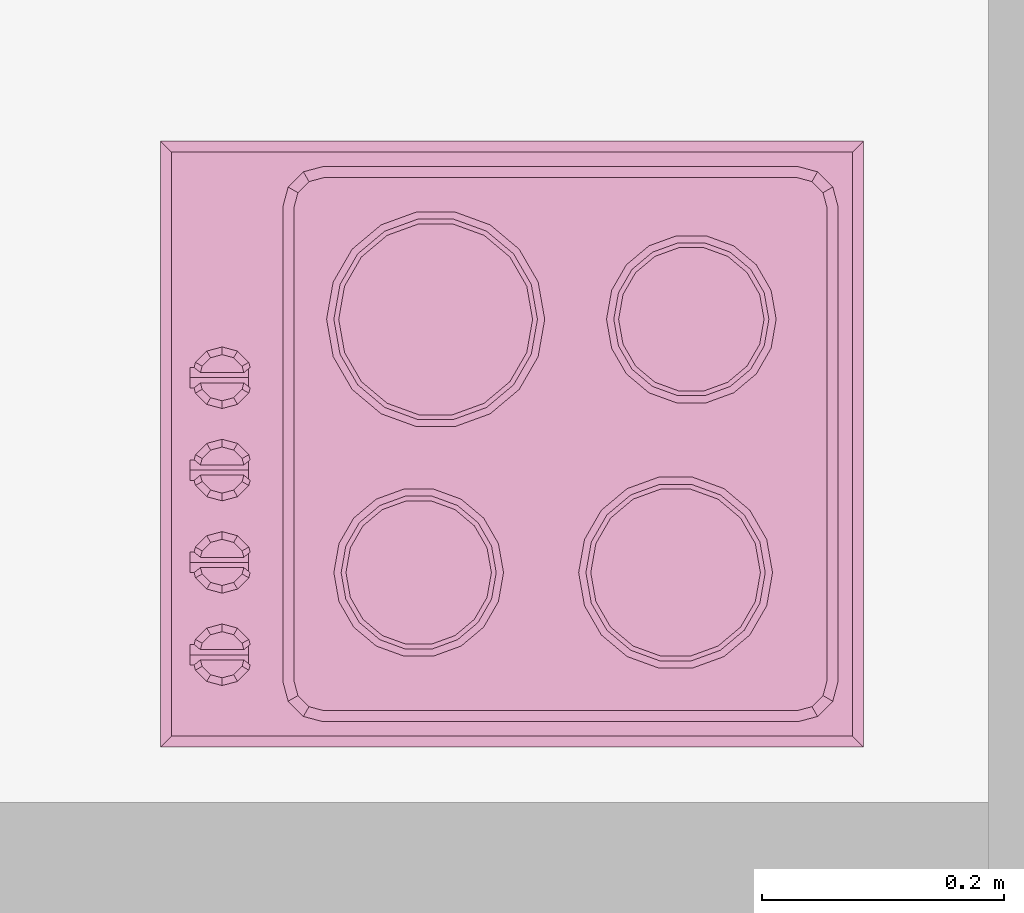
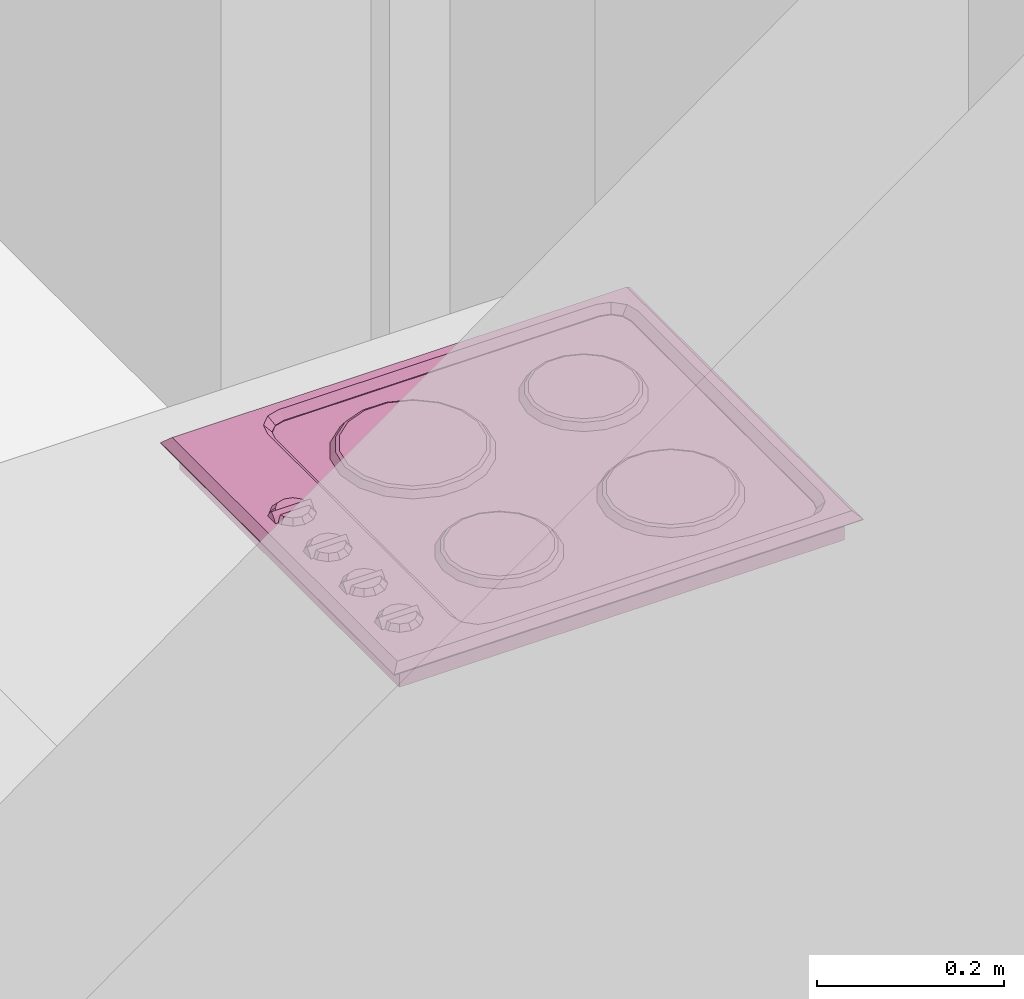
# One storey, part 157 of 172: 1 furnishing.
"""IFC2X3 building model written with IfcOpenShell, lengths in millimetres."""

from ifc_helpers import new_model, entity, si_unit, converted_unit, money_unit, direction, frame, origin_with_axes, place, context, subcontext, project, spatial, faceted_brep, source, transform, mapped, material, material_list, type_object, element, save


model = new_model("IFC2X3")

# Units and contexts
model_context = context("Model", 3, precision=1e-05, world=origin_with_axes(), true_north=direction((0.0, 1.0)))
body_context = subcontext(model_context, "Body", "Model", "MODEL_VIEW")
ifc_project = project(units=[si_unit("LENGTHUNIT", "METRE", prefix="MILLI"), si_unit("AREAUNIT", "SQUARE_METRE"), si_unit("VOLUMEUNIT", "CUBIC_METRE"), converted_unit("PLANEANGLEUNIT", "DEGREE", entity("IfcPlaneAngleMeasure", 0.0174532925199), si_unit("PLANEANGLEUNIT", "RADIAN"), dimensions=[0, 0, 0, 0, 0, 0, 0]), si_unit("SOLIDANGLEUNIT", "STERADIAN"), money_unit("USD"), converted_unit("TIMEUNIT", "Year", entity("IfcTimeMeasure", 31556926.0), si_unit("TIMEUNIT", "SECOND"), dimensions=[0, 0, 0, 0, 0, 0, 0]), si_unit("MASSUNIT", "GRAM"), si_unit("THERMODYNAMICTEMPERATUREUNIT", "DEGREE_CELSIUS"), si_unit("LUMINOUSINTENSITYUNIT", "LUMEN")], contexts=[model_context])

# Site, building, storey
site_placement = place(None, origin_with_axes())
site = spatial("IfcSite", under=ifc_project, at=site_placement, Name="Site", CompositionType="ELEMENT")
building_placement = place(site_placement, origin_with_axes())
building = spatial("IfcBuilding", under=site, at=building_placement, Name="Building", CompositionType="ELEMENT")
storey_placement = place(building_placement, frame((0.0, 0.0, 3200.0), z_axis=(0.0, 0.0, 1.0), x_axis=(1.0, 0.0, 0.0)))
storey = spatial("IfcBuildingStorey", under=building, at=storey_placement, Name="3KORRUS", CompositionType="ELEMENT", Elevation=3200.0)

# Furnishing
ifc_material = material(Name="Background")
ifc_material_list = material_list([ifc_material])
furnishing_element_type = type_object("IfcFurnishingElementType", Name="Cooktops Electric 19")
shared_shape = source(origin_with_axes(), body_context, "Body", "Brep", [
    faceted_brep([(-230.175, 116.638, 900.0), (-224.537, 118.691, 908.0), (-229.0, 144.0, 908.0), (-235.0, 144.0, 900.0), (-216.284, 92.577, 900.0), (-211.687, 96.434, 908.0), (-192.0, 79.914, 908.0), (-167.85, 71.124, 908.0), (-142.15, 71.124, 908.0), (-118.0, 79.914, 908.0), (-98.313, 96.434, 908.0), (-85.463, 118.691, 908.0), (-81.0, 144.0, 908.0), (-85.463, 169.309, 908.0), (-98.313, 191.566, 908.0), (-118.0, 208.086, 908.0), (-142.15, 216.876, 908.0), (-167.85, 216.876, 908.0), (-192.0, 208.086, 908.0), (-211.687, 191.566, 908.0), (-224.537, 169.309, 908.0), (-230.175, 171.362, 900.0), (-216.284, 195.423, 900.0), (-195.0, 213.282, 900.0), (-168.892, 222.785, 900.0), (-141.108, 222.785, 900.0), (-115.0, 213.282, 900.0), (-93.716, 195.423, 900.0), (-79.825, 171.362, 900.0), (-75.0, 144.0, 900.0), (-79.825, 116.638, 900.0), (-93.716, 92.577, 900.0), (-115.0, 74.718, 900.0), (-141.108, 65.215, 900.0), (-168.892, 65.215, 900.0), (-195.0, 74.718, 900.0)], [[[0, 1, 2, 3]], [[4, 5, 1, 0]], [[1, 5, 6, 7, 8, 9, 10, 11, 12, 13, 14, 15, 16, 17, 18, 19, 20, 2]], [[3, 2, 20, 21]], [[0, 3, 21, 22, 23, 24, 25, 26, 27, 28, 29, 30, 31, 32, 33, 34, 35, 4]], [[35, 6, 5, 4]], [[34, 7, 6, 35]], [[33, 8, 7, 34]], [[32, 9, 8, 33]], [[31, 10, 9, 32]], [[30, 11, 10, 31]], [[29, 12, 11, 30]], [[28, 13, 12, 29]], [[27, 14, 13, 28]], [[26, 15, 14, 27]], [[25, 16, 15, 26]], [[24, 17, 16, 25]], [[23, 18, 17, 24]], [[22, 19, 18, 23]], [[21, 20, 19, 22]]]),
    faceted_brep([(-224.537, 118.691, 908.0), (-220.778, 120.059, 910.0), (-225.0, 144.0, 910.0), (-229.0, 144.0, 908.0), (-211.687, 96.434, 908.0), (-208.623, 99.005, 910.0), (-190.0, 83.378, 910.0), (-167.155, 75.063, 910.0), (-142.845, 75.063, 910.0), (-120.0, 83.378, 910.0), (-101.377, 99.005, 910.0), (-89.222, 120.059, 910.0), (-85.0, 144.0, 910.0), (-89.222, 167.941, 910.0), (-101.377, 188.995, 910.0), (-120.0, 204.622, 910.0), (-142.845, 212.937, 910.0), (-167.155, 212.937, 910.0), (-190.0, 204.622, 910.0), (-208.623, 188.995, 910.0), (-220.778, 167.941, 910.0), (-224.537, 169.309, 908.0), (-211.687, 191.566, 908.0), (-192.0, 208.086, 908.0), (-167.85, 216.876, 908.0), (-142.15, 216.876, 908.0), (-118.0, 208.086, 908.0), (-98.313, 191.566, 908.0), (-85.463, 169.309, 908.0), (-81.0, 144.0, 908.0), (-85.463, 118.691, 908.0), (-98.313, 96.434, 908.0), (-118.0, 79.914, 908.0), (-142.15, 71.124, 908.0), (-167.85, 71.124, 908.0), (-192.0, 79.914, 908.0)], [[[0, 1, 2, 3]], [[4, 5, 1, 0]], [[1, 5, 6, 7, 8, 9, 10, 11, 12, 13, 14, 15, 16, 17, 18, 19, 20, 2]], [[3, 2, 20, 21]], [[0, 3, 21, 22, 23, 24, 25, 26, 27, 28, 29, 30, 31, 32, 33, 34, 35, 4]], [[35, 6, 5, 4]], [[34, 7, 6, 35]], [[33, 8, 7, 34]], [[32, 9, 8, 33]], [[31, 10, 9, 32]], [[30, 11, 10, 31]], [[29, 12, 11, 30]], [[28, 13, 12, 29]], [[27, 14, 13, 28]], [[26, 15, 14, 27]], [[25, 16, 15, 26]], [[24, 17, 16, 25]], [[23, 18, 17, 24]], [[22, 19, 18, 23]], [[21, 20, 19, 22]]]),
    faceted_brep([(-432.778, 120.059, 900.0), (-427.14, 122.111, 908.0), (-431.0, 144.0, 908.0), (-437.0, 144.0, 900.0), (-420.623, 99.005, 900.0), (-416.027, 102.862, 908.0), (-399.0, 88.574, 908.0), (-378.113, 80.972, 908.0), (-355.887, 80.972, 908.0), (-335.0, 88.574, 908.0), (-317.973, 102.862, 908.0), (-306.86, 122.111, 908.0), (-303.0, 144.0, 908.0), (-306.86, 165.889, 908.0), (-317.973, 185.138, 908.0), (-335.0, 199.426, 908.0), (-355.887, 207.028, 908.0), (-378.113, 207.028, 908.0), (-399.0, 199.426, 908.0), (-416.027, 185.138, 908.0), (-427.14, 165.889, 908.0), (-432.778, 167.941, 900.0), (-420.623, 188.995, 900.0), (-402.0, 204.622, 900.0), (-379.155, 212.937, 900.0), (-354.845, 212.937, 900.0), (-332.0, 204.622, 900.0), (-313.377, 188.995, 900.0), (-301.222, 167.941, 900.0), (-297.0, 144.0, 900.0), (-301.222, 120.059, 900.0), (-313.377, 99.005, 900.0), (-332.0, 83.378, 900.0), (-354.845, 75.063, 900.0), (-379.155, 75.063, 900.0), (-402.0, 83.378, 900.0)], [[[0, 1, 2, 3]], [[4, 5, 1, 0]], [[1, 5, 6, 7, 8, 9, 10, 11, 12, 13, 14, 15, 16, 17, 18, 19, 20, 2]], [[3, 2, 20, 21]], [[0, 3, 21, 22, 23, 24, 25, 26, 27, 28, 29, 30, 31, 32, 33, 34, 35, 4]], [[35, 6, 5, 4]], [[34, 7, 6, 35]], [[33, 8, 7, 34]], [[32, 9, 8, 33]], [[31, 10, 9, 32]], [[30, 11, 10, 31]], [[29, 12, 11, 30]], [[28, 13, 12, 29]], [[27, 14, 13, 28]], [[26, 15, 14, 27]], [[25, 16, 15, 26]], [[24, 17, 16, 25]], [[23, 18, 17, 24]], [[22, 19, 18, 23]], [[21, 20, 19, 22]]]),
    faceted_brep([(-427.14, 122.111, 908.0), (-423.382, 123.479, 910.0), (-427.0, 144.0, 910.0), (-431.0, 144.0, 908.0), (-416.027, 102.862, 908.0), (-412.963, 105.433, 910.0), (-397.0, 92.038, 910.0), (-377.419, 84.912, 910.0), (-356.581, 84.912, 910.0), (-337.0, 92.038, 910.0), (-321.037, 105.433, 910.0), (-310.618, 123.479, 910.0), (-307.0, 144.0, 910.0), (-310.618, 164.521, 910.0), (-321.037, 182.567, 910.0), (-337.0, 195.962, 910.0), (-356.581, 203.088, 910.0), (-377.419, 203.088, 910.0), (-397.0, 195.962, 910.0), (-412.963, 182.567, 910.0), (-423.382, 164.521, 910.0), (-427.14, 165.889, 908.0), (-416.027, 185.138, 908.0), (-399.0, 199.426, 908.0), (-378.113, 207.028, 908.0), (-355.887, 207.028, 908.0), (-335.0, 199.426, 908.0), (-317.973, 185.138, 908.0), (-306.86, 165.889, 908.0), (-303.0, 144.0, 908.0), (-306.86, 122.111, 908.0), (-317.973, 102.862, 908.0), (-335.0, 88.574, 908.0), (-355.887, 80.972, 908.0), (-378.113, 80.972, 908.0), (-399.0, 88.574, 908.0)], [[[0, 1, 2, 3]], [[4, 5, 1, 0]], [[1, 5, 6, 7, 8, 9, 10, 11, 12, 13, 14, 15, 16, 17, 18, 19, 20, 2]], [[3, 2, 20, 21]], [[0, 3, 21, 22, 23, 24, 25, 26, 27, 28, 29, 30, 31, 32, 33, 34, 35, 4]], [[35, 6, 5, 4]], [[34, 7, 6, 35]], [[33, 8, 7, 34]], [[32, 9, 8, 33]], [[31, 10, 9, 32]], [[30, 11, 10, 31]], [[29, 12, 11, 30]], [[28, 13, 12, 29]], [[27, 14, 13, 28]], [[26, 15, 14, 27]], [[25, 16, 15, 26]], [[24, 17, 16, 25]], [[23, 18, 17, 24]], [[22, 19, 18, 23]], [[21, 20, 19, 22]]]),
    faceted_brep([(-437.572, 322.218, 900.0), (-431.934, 324.27, 908.0), (-437.0, 353.0, 908.0), (-443.0, 353.0, 900.0), (-421.944, 295.149, 900.0), (-417.348, 299.006, 908.0), (-395.0, 280.254, 908.0), (-367.586, 270.276, 908.0), (-338.414, 270.276, 908.0), (-311.0, 280.254, 908.0), (-288.652, 299.006, 908.0), (-274.066, 324.27, 908.0), (-269.0, 353.0, 908.0), (-274.066, 381.73, 908.0), (-288.652, 406.994, 908.0), (-311.0, 425.746, 908.0), (-338.414, 435.724, 908.0), (-367.586, 435.724, 908.0), (-395.0, 425.746, 908.0), (-417.348, 406.994, 908.0), (-431.934, 381.73, 908.0), (-437.572, 383.782, 900.0), (-421.944, 410.851, 900.0), (-398.0, 430.942, 900.0), (-368.628, 441.633, 900.0), (-337.372, 441.633, 900.0), (-308.0, 430.942, 900.0), (-284.056, 410.851, 900.0), (-268.428, 383.782, 900.0), (-263.0, 353.0, 900.0), (-268.428, 322.218, 900.0), (-284.056, 295.149, 900.0), (-308.0, 275.058, 900.0), (-337.372, 264.367, 900.0), (-368.628, 264.367, 900.0), (-398.0, 275.058, 900.0)], [[[0, 1, 2, 3]], [[4, 5, 1, 0]], [[1, 5, 6, 7, 8, 9, 10, 11, 12, 13, 14, 15, 16, 17, 18, 19, 20, 2]], [[3, 2, 20, 21]], [[0, 3, 21, 22, 23, 24, 25, 26, 27, 28, 29, 30, 31, 32, 33, 34, 35, 4]], [[35, 6, 5, 4]], [[34, 7, 6, 35]], [[33, 8, 7, 34]], [[32, 9, 8, 33]], [[31, 10, 9, 32]], [[30, 11, 10, 31]], [[29, 12, 11, 30]], [[28, 13, 12, 29]], [[27, 14, 13, 28]], [[26, 15, 14, 27]], [[25, 16, 15, 26]], [[24, 17, 16, 25]], [[23, 18, 17, 24]], [[22, 19, 18, 23]], [[21, 20, 19, 22]]]),
    faceted_brep([(-431.934, 324.27, 908.0), (-428.175, 325.638, 910.0), (-433.0, 353.0, 910.0), (-437.0, 353.0, 908.0), (-417.348, 299.006, 908.0), (-414.284, 301.577, 910.0), (-393.0, 283.718, 910.0), (-366.892, 274.215, 910.0), (-339.108, 274.215, 910.0), (-313.0, 283.718, 910.0), (-291.716, 301.577, 910.0), (-277.825, 325.638, 910.0), (-273.0, 353.0, 910.0), (-277.825, 380.362, 910.0), (-291.716, 404.423, 910.0), (-313.0, 422.282, 910.0), (-339.108, 431.785, 910.0), (-366.892, 431.785, 910.0), (-393.0, 422.282, 910.0), (-414.284, 404.423, 910.0), (-428.175, 380.362, 910.0), (-431.934, 381.73, 908.0), (-417.348, 406.994, 908.0), (-395.0, 425.746, 908.0), (-367.586, 435.724, 908.0), (-338.414, 435.724, 908.0), (-311.0, 425.746, 908.0), (-288.652, 406.994, 908.0), (-274.066, 381.73, 908.0), (-269.0, 353.0, 908.0), (-274.066, 324.27, 908.0), (-288.652, 299.006, 908.0), (-311.0, 280.254, 908.0), (-338.414, 270.276, 908.0), (-367.586, 270.276, 908.0), (-395.0, 280.254, 908.0)], [[[0, 1, 2, 3]], [[4, 5, 1, 0]], [[1, 5, 6, 7, 8, 9, 10, 11, 12, 13, 14, 15, 16, 17, 18, 19, 20, 2]], [[3, 2, 20, 21]], [[0, 3, 21, 22, 23, 24, 25, 26, 27, 28, 29, 30, 31, 32, 33, 34, 35, 4]], [[35, 6, 5, 4]], [[34, 7, 6, 35]], [[33, 8, 7, 34]], [[32, 9, 8, 33]], [[31, 10, 9, 32]], [[30, 11, 10, 31]], [[29, 12, 11, 30]], [[28, 13, 12, 29]], [[27, 14, 13, 28]], [[26, 15, 14, 27]], [[25, 16, 15, 26]], [[24, 17, 16, 25]], [[23, 18, 17, 24]], [[22, 19, 18, 23]], [[21, 20, 19, 22]]]),
    faceted_brep([(-207.778, 329.059, 900.0), (-202.14, 331.111, 908.0), (-206.0, 353.0, 908.0), (-212.0, 353.0, 900.0), (-195.623, 308.005, 900.0), (-191.027, 311.862, 908.0), (-174.0, 297.574, 908.0), (-153.113, 289.972, 908.0), (-130.887, 289.972, 908.0), (-110.0, 297.574, 908.0), (-92.973, 311.862, 908.0), (-81.86, 331.111, 908.0), (-78.0, 353.0, 908.0), (-81.86, 374.889, 908.0), (-92.973, 394.138, 908.0), (-110.0, 408.426, 908.0), (-130.887, 416.028, 908.0), (-153.113, 416.028, 908.0), (-174.0, 408.426, 908.0), (-191.027, 394.138, 908.0), (-202.14, 374.889, 908.0), (-207.778, 376.941, 900.0), (-195.623, 397.995, 900.0), (-177.0, 413.622, 900.0), (-154.155, 421.937, 900.0), (-129.845, 421.937, 900.0), (-107.0, 413.622, 900.0), (-88.377, 397.995, 900.0), (-76.222, 376.941, 900.0), (-72.0, 353.0, 900.0), (-76.222, 329.059, 900.0), (-88.377, 308.005, 900.0), (-107.0, 292.378, 900.0), (-129.845, 284.063, 900.0), (-154.155, 284.063, 900.0), (-177.0, 292.378, 900.0)], [[[0, 1, 2, 3]], [[4, 5, 1, 0]], [[1, 5, 6, 7, 8, 9, 10, 11, 12, 13, 14, 15, 16, 17, 18, 19, 20, 2]], [[3, 2, 20, 21]], [[0, 3, 21, 22, 23, 24, 25, 26, 27, 28, 29, 30, 31, 32, 33, 34, 35, 4]], [[35, 6, 5, 4]], [[34, 7, 6, 35]], [[33, 8, 7, 34]], [[32, 9, 8, 33]], [[31, 10, 9, 32]], [[30, 11, 10, 31]], [[29, 12, 11, 30]], [[28, 13, 12, 29]], [[27, 14, 13, 28]], [[26, 15, 14, 27]], [[25, 16, 15, 26]], [[24, 17, 16, 25]], [[23, 18, 17, 24]], [[22, 19, 18, 23]], [[21, 20, 19, 22]]]),
    faceted_brep([(-202.14, 331.111, 908.0), (-198.382, 332.479, 910.0), (-202.0, 353.0, 910.0), (-206.0, 353.0, 908.0), (-191.027, 311.862, 908.0), (-187.963, 314.433, 910.0), (-172.0, 301.038, 910.0), (-152.419, 293.912, 910.0), (-131.581, 293.912, 910.0), (-112.0, 301.038, 910.0), (-96.037, 314.433, 910.0), (-85.618, 332.479, 910.0), (-82.0, 353.0, 910.0), (-85.618, 373.521, 910.0), (-96.037, 391.567, 910.0), (-112.0, 404.962, 910.0), (-131.581, 412.088, 910.0), (-152.419, 412.088, 910.0), (-172.0, 404.962, 910.0), (-187.963, 391.567, 910.0), (-198.382, 373.521, 910.0), (-202.14, 374.889, 908.0), (-191.027, 394.138, 908.0), (-174.0, 408.426, 908.0), (-153.113, 416.028, 908.0), (-130.887, 416.028, 908.0), (-110.0, 408.426, 908.0), (-92.973, 394.138, 908.0), (-81.86, 374.889, 908.0), (-78.0, 353.0, 908.0), (-81.86, 331.111, 908.0), (-92.973, 311.862, 908.0), (-110.0, 297.574, 908.0), (-130.887, 289.972, 908.0), (-153.113, 289.972, 908.0), (-174.0, 297.574, 908.0)], [[[0, 1, 2, 3]], [[4, 5, 1, 0]], [[1, 5, 6, 7, 8, 9, 10, 11, 12, 13, 14, 15, 16, 17, 18, 19, 20, 2]], [[3, 2, 20, 21]], [[0, 3, 21, 22, 23, 24, 25, 26, 27, 28, 29, 30, 31, 32, 33, 34, 35, 4]], [[35, 6, 5, 4]], [[34, 7, 6, 35]], [[33, 8, 7, 34]], [[32, 9, 8, 33]], [[31, 10, 9, 32]], [[30, 11, 10, 31]], [[29, 12, 11, 30]], [[28, 13, 12, 29]], [[27, 14, 13, 28]], [[26, 15, 14, 27]], [[25, 16, 15, 26]], [[24, 17, 16, 25]], [[23, 18, 17, 24]], [[22, 19, 18, 23]], [[21, 20, 19, 22]]]),
    faceted_brep([(-506.069, 67.733, 910.0), (-507.203, 63.5, 910.0), (-516.5, 54.203, 910.0), (-529.2, 50.8, 910.0), (-541.9, 54.203, 910.0), (-551.197, 63.5, 910.0), (-552.331, 67.733, 910.0), (-511.284, 71.967, 916.35), (-512.702, 66.675, 916.35), (-519.675, 59.702, 916.35), (-529.2, 57.15, 916.35), (-538.725, 59.702, 916.35), (-545.698, 66.675, 916.35), (-547.116, 71.967, 916.35)], [[[0, 1, 2, 3, 4, 5, 6]], [[7, 8, 1, 0]], [[9, 2, 1, 8]], [[10, 3, 2, 9]], [[11, 4, 3, 10]], [[12, 5, 4, 11]], [[6, 5, 12, 13]], [[13, 7, 0, 6]], [[13, 12, 11, 10, 9, 8, 7]]]),
    faceted_brep([(-547.116, 80.433, 916.35), (-545.698, 85.725, 916.35), (-551.197, 88.9, 910.0), (-552.331, 84.667, 910.0), (-511.284, 80.433, 916.35), (-512.702, 85.725, 916.35), (-519.675, 92.698, 916.35), (-529.2, 95.25, 916.35), (-538.725, 92.698, 916.35), (-541.9, 98.197, 910.0), (-529.2, 101.6, 910.0), (-516.5, 98.197, 910.0), (-507.203, 88.9, 910.0), (-506.069, 84.667, 910.0)], [[[0, 1, 2, 3]], [[4, 5, 6, 7, 8, 1, 0]], [[8, 9, 2, 1]], [[3, 2, 9, 10, 11, 12, 13]], [[13, 4, 0, 3]], [[13, 12, 5, 4]], [[5, 12, 11, 6]], [[6, 11, 10, 7]], [[7, 10, 9, 8]]]),
    faceted_brep([(-555.658, 84.667, 910.0), (-507.398, 84.667, 910.0), (-507.398, 67.733, 910.0), (-555.658, 67.733, 910.0), (-555.658, 80.433, 916.35), (-507.398, 80.433, 916.35), (-507.398, 76.2, 920.583), (-507.398, 71.967, 916.35), (-555.658, 71.967, 916.35), (-555.658, 76.2, 920.583)], [[[0, 1, 2, 3]], [[4, 5, 1, 0]], [[1, 5, 6, 7, 2]], [[3, 2, 7, 8]], [[0, 3, 8, 9, 4]], [[9, 6, 5, 4]], [[8, 7, 6, 9]]]),
    faceted_brep([(-506.069, 143.933, 910.0), (-507.203, 139.7, 910.0), (-516.5, 130.403, 910.0), (-529.2, 127.0, 910.0), (-541.9, 130.403, 910.0), (-551.197, 139.7, 910.0), (-552.331, 143.933, 910.0), (-511.284, 148.167, 916.35), (-512.702, 142.875, 916.35), (-519.675, 135.902, 916.35), (-529.2, 133.35, 916.35), (-538.725, 135.902, 916.35), (-545.698, 142.875, 916.35), (-547.116, 148.167, 916.35)], [[[0, 1, 2, 3, 4, 5, 6]], [[7, 8, 1, 0]], [[9, 2, 1, 8]], [[10, 3, 2, 9]], [[11, 4, 3, 10]], [[12, 5, 4, 11]], [[6, 5, 12, 13]], [[13, 7, 0, 6]], [[13, 12, 11, 10, 9, 8, 7]]]),
    faceted_brep([(-547.116, 156.633, 916.35), (-545.698, 161.925, 916.35), (-551.197, 165.1, 910.0), (-552.331, 160.867, 910.0), (-511.284, 156.633, 916.35), (-512.702, 161.925, 916.35), (-519.675, 168.898, 916.35), (-529.2, 171.45, 916.35), (-538.725, 168.898, 916.35), (-541.9, 174.397, 910.0), (-529.2, 177.8, 910.0), (-516.5, 174.397, 910.0), (-507.203, 165.1, 910.0), (-506.069, 160.867, 910.0)], [[[0, 1, 2, 3]], [[4, 5, 6, 7, 8, 1, 0]], [[8, 9, 2, 1]], [[3, 2, 9, 10, 11, 12, 13]], [[13, 4, 0, 3]], [[13, 12, 5, 4]], [[5, 12, 11, 6]], [[6, 11, 10, 7]], [[7, 10, 9, 8]]]),
    faceted_brep([(-555.658, 160.867, 910.0), (-507.398, 160.867, 910.0), (-507.398, 143.933, 910.0), (-555.658, 143.933, 910.0), (-555.658, 156.633, 916.35), (-507.398, 156.633, 916.35), (-507.398, 152.4, 920.583), (-507.398, 148.167, 916.35), (-555.658, 148.167, 916.35), (-555.658, 152.4, 920.583)], [[[0, 1, 2, 3]], [[4, 5, 1, 0]], [[1, 5, 6, 7, 2]], [[3, 2, 7, 8]], [[0, 3, 8, 9, 4]], [[9, 6, 5, 4]], [[8, 7, 6, 9]]]),
    faceted_brep([(-506.069, 220.133, 910.0), (-507.203, 215.9, 910.0), (-516.5, 206.603, 910.0), (-529.2, 203.2, 910.0), (-541.9, 206.603, 910.0), (-551.197, 215.9, 910.0), (-552.331, 220.133, 910.0), (-511.284, 224.367, 916.35), (-512.702, 219.075, 916.35), (-519.675, 212.102, 916.35), (-529.2, 209.55, 916.35), (-538.725, 212.102, 916.35), (-545.698, 219.075, 916.35), (-547.116, 224.367, 916.35)], [[[0, 1, 2, 3, 4, 5, 6]], [[7, 8, 1, 0]], [[9, 2, 1, 8]], [[10, 3, 2, 9]], [[11, 4, 3, 10]], [[12, 5, 4, 11]], [[6, 5, 12, 13]], [[13, 7, 0, 6]], [[13, 12, 11, 10, 9, 8, 7]]]),
    faceted_brep([(-547.116, 232.833, 916.35), (-545.698, 238.125, 916.35), (-551.197, 241.3, 910.0), (-552.331, 237.067, 910.0), (-511.284, 232.833, 916.35), (-512.702, 238.125, 916.35), (-519.675, 245.098, 916.35), (-529.2, 247.65, 916.35), (-538.725, 245.098, 916.35), (-541.9, 250.597, 910.0), (-529.2, 254.0, 910.0), (-516.5, 250.597, 910.0), (-507.203, 241.3, 910.0), (-506.069, 237.067, 910.0)], [[[0, 1, 2, 3]], [[4, 5, 6, 7, 8, 1, 0]], [[8, 9, 2, 1]], [[3, 2, 9, 10, 11, 12, 13]], [[13, 4, 0, 3]], [[13, 12, 5, 4]], [[5, 12, 11, 6]], [[6, 11, 10, 7]], [[7, 10, 9, 8]]]),
    faceted_brep([(-555.658, 237.067, 910.0), (-507.398, 237.067, 910.0), (-507.398, 220.133, 910.0), (-555.658, 220.133, 910.0), (-555.658, 232.833, 916.35), (-507.398, 232.833, 916.35), (-507.398, 228.6, 920.583), (-507.398, 224.367, 916.35), (-555.658, 224.367, 916.35), (-555.658, 228.6, 920.583)], [[[0, 1, 2, 3]], [[4, 5, 1, 0]], [[1, 5, 6, 7, 2]], [[3, 2, 7, 8]], [[0, 3, 8, 9, 4]], [[9, 6, 5, 4]], [[8, 7, 6, 9]]]),
    faceted_brep([(-506.069, 296.333, 910.0), (-507.203, 292.1, 910.0), (-516.5, 282.803, 910.0), (-529.2, 279.4, 910.0), (-541.9, 282.803, 910.0), (-551.197, 292.1, 910.0), (-552.331, 296.333, 910.0), (-511.284, 300.567, 916.35), (-512.702, 295.275, 916.35), (-519.675, 288.302, 916.35), (-529.2, 285.75, 916.35), (-538.725, 288.302, 916.35), (-545.698, 295.275, 916.35), (-547.116, 300.567, 916.35)], [[[0, 1, 2, 3, 4, 5, 6]], [[7, 8, 1, 0]], [[9, 2, 1, 8]], [[10, 3, 2, 9]], [[11, 4, 3, 10]], [[12, 5, 4, 11]], [[6, 5, 12, 13]], [[13, 7, 0, 6]], [[13, 12, 11, 10, 9, 8, 7]]]),
    faceted_brep([(-547.116, 309.033, 916.35), (-545.698, 314.325, 916.35), (-551.197, 317.5, 910.0), (-552.331, 313.267, 910.0), (-511.284, 309.033, 916.35), (-512.702, 314.325, 916.35), (-519.675, 321.298, 916.35), (-529.2, 323.85, 916.35), (-538.725, 321.298, 916.35), (-541.9, 326.797, 910.0), (-529.2, 330.2, 910.0), (-516.5, 326.797, 910.0), (-507.203, 317.5, 910.0), (-506.069, 313.267, 910.0)], [[[0, 1, 2, 3]], [[4, 5, 6, 7, 8, 1, 0]], [[8, 9, 2, 1]], [[3, 2, 9, 10, 11, 12, 13]], [[13, 4, 0, 3]], [[13, 12, 5, 4]], [[5, 12, 11, 6]], [[6, 11, 10, 7]], [[7, 10, 9, 8]]]),
    faceted_brep([(-555.658, 313.267, 910.0), (-507.398, 313.267, 910.0), (-507.398, 296.333, 910.0), (-555.658, 296.333, 910.0), (-555.658, 309.033, 916.35), (-507.398, 309.033, 916.35), (-507.398, 304.8, 920.583), (-507.398, 300.567, 916.35), (-555.658, 300.567, 916.35), (-555.658, 304.8, 920.583)], [[[0, 1, 2, 3]], [[4, 5, 1, 0]], [[1, 5, 6, 7, 2]], [[3, 2, 7, 8]], [[0, 3, 8, 9, 4]], [[9, 6, 5, 4]], [[8, 7, 6, 9]]]),
    faceted_brep([(-580.0, 0.0, 900.0), (-580.0, 500.0, 900.0), (0.0, 500.0, 900.0), (0.0, 0.0, 900.0), (-33.349, 457.5, 900.0), (-42.5, 466.651, 900.0), (-55.0, 470.0, 900.0), (-445.0, 470.0, 900.0), (-457.5, 466.651, 900.0), (-466.651, 457.5, 900.0), (-470.0, 445.0, 900.0), (-470.0, 55.0, 900.0), (-466.651, 42.5, 900.0), (-457.5, 33.349, 900.0), (-445.0, 30.0, 900.0), (-55.0, 30.0, 900.0), (-42.5, 33.349, 900.0), (-33.349, 42.5, 900.0), (-30.0, 55.0, 900.0), (-30.0, 445.0, 900.0), (-580.0, 0.0, 901.0), (-580.0, 500.0, 901.0), (0.0, 500.0, 901.0), (0.0, 0.0, 901.0), (-33.349, 457.5, 901.0), (-42.5, 466.651, 901.0), (-55.0, 470.0, 901.0), (-445.0, 470.0, 901.0), (-457.5, 466.651, 901.0), (-466.651, 457.5, 901.0), (-470.0, 445.0, 901.0), (-470.0, 55.0, 901.0), (-466.651, 42.5, 901.0), (-457.5, 33.349, 901.0), (-445.0, 30.0, 901.0), (-55.0, 30.0, 901.0), (-42.5, 33.349, 901.0), (-33.349, 42.5, 901.0), (-30.0, 55.0, 901.0), (-30.0, 445.0, 901.0), (-571.0, 9.0, 910.0), (-571.0, 491.0, 910.0), (-9.0, 491.0, 910.0), (-9.0, 9.0, 910.0), (-25.28, 462.159, 910.0), (-37.841, 474.72, 910.0), (-53.815, 479.0, 910.0), (-446.185, 479.0, 910.0), (-462.159, 474.72, 910.0), (-474.72, 462.159, 910.0), (-479.0, 446.185, 910.0), (-479.0, 53.815, 910.0), (-474.72, 37.841, 910.0), (-462.159, 25.28, 910.0), (-446.185, 21.0, 910.0), (-53.815, 21.0, 910.0), (-37.841, 25.28, 910.0), (-25.28, 37.841, 910.0), (-21.0, 53.815, 910.0), (-21.0, 446.185, 910.0)], [[[0, 1, 2, 3], [4, 5, 6, 7, 8, 9, 10, 11, 12, 13, 14, 15, 16, 17, 18, 19]], [[0, 20, 21, 1]], [[1, 21, 22, 2]], [[2, 22, 23, 3]], [[3, 23, 20, 0]], [[4, 24, 25, 5]], [[5, 25, 26, 6]], [[6, 26, 27, 7]], [[7, 27, 28, 8]], [[8, 28, 29, 9]], [[9, 29, 30, 10]], [[10, 30, 31, 11]], [[11, 31, 32, 12]], [[12, 32, 33, 13]], [[13, 33, 34, 14]], [[14, 34, 35, 15]], [[15, 35, 36, 16]], [[16, 36, 37, 17]], [[17, 37, 38, 18]], [[18, 38, 39, 19]], [[19, 39, 24, 4]], [[20, 40, 41, 21]], [[21, 41, 42, 22]], [[22, 42, 43, 23]], [[23, 43, 40, 20]], [[24, 44, 45, 25]], [[25, 45, 46, 26]], [[26, 46, 47, 27]], [[27, 47, 48, 28]], [[28, 48, 49, 29]], [[29, 49, 50, 30]], [[30, 50, 51, 31]], [[31, 51, 52, 32]], [[32, 52, 53, 33]], [[33, 53, 54, 34]], [[34, 54, 55, 35]], [[35, 55, 56, 36]], [[36, 56, 57, 37]], [[37, 57, 58, 38]], [[38, 58, 59, 39]], [[39, 59, 44, 24]], [[42, 41, 40, 43], [58, 57, 56, 55, 54, 53, 52, 51, 50, 49, 48, 47, 46, 45, 44, 59]]]),
    faceted_brep([(-565.0, 485.0, 870.0), (-565.0, 485.0, 900.0), (-15.0, 485.0, 900.0), (-15.0, 485.0, 870.0), (-565.0, 15.0, 870.0), (-565.0, 15.0, 900.0), (-15.0, 15.0, 900.0), (-15.0, 15.0, 870.0)], [[[0, 1, 2, 3]], [[4, 5, 1, 0]], [[1, 5, 6, 2]], [[3, 2, 6, 7]], [[0, 3, 7, 4]], [[7, 6, 5, 4]]]),
])
furnishing_placement = place(storey_placement, frame((-48393.5319623, -8843.5660247, 0.0), z_axis=(0.0, 0.0, 1.0), x_axis=(1.0, 0.0, 0.0)))
element("IfcFurnishingElement", 1, at=furnishing_placement, inside=storey, type_object=furnishing_element_type, material=ifc_material_list, Name="FU - 007", context=body_context, shape_type="MappedRepresentation", body=[
    mapped(shared_shape, transform((0.0, 0.0, 0.0))),
])

save(model, "model.ifc")
